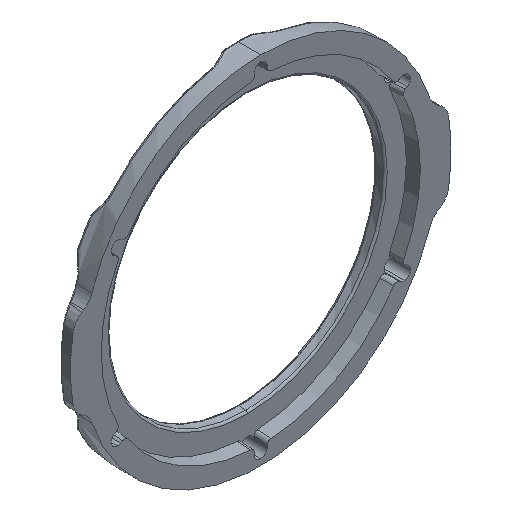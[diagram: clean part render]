
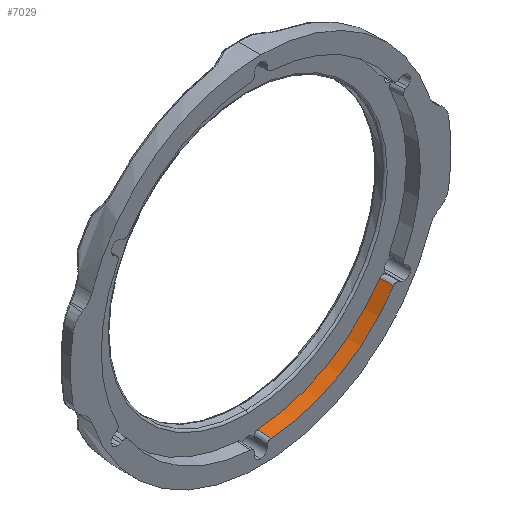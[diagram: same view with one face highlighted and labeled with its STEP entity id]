
A CAD part, isometric view. The second image highlights one B-rep face of the part: STEP entity #7029.
In plain terms, the highlighted conical face has half-angle 4 degrees and reference radius 39.825 mm.
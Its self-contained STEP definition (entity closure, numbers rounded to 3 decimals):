
#16 = DIRECTION ( 'NONE',  ( 0., -1., 0. ) ) ;
#123 = CARTESIAN_POINT ( 'NONE',  ( 33.071, 1.33, -22.022 ) ) ;
#301 = AXIS2_PLACEMENT_3D ( 'NONE', #3674, #16, #1499 ) ;
#443 = DIRECTION ( 'NONE',  ( 0., 0., -1. ) ) ;
#460 = CARTESIAN_POINT ( 'NONE',  ( 2.536, 0., -39.744 ) ) ;
#484 = CARTESIAN_POINT ( 'NONE',  ( 32.951, 3.3, -21.953 ) ) ;
#579 = ORIENTED_EDGE ( 'NONE', *, *, #2286, .T. ) ;
#1055 = EDGE_LOOP ( 'NONE', ( #8793, #5590, #579, #3909 ) ) ;
#1317 = AXIS2_PLACEMENT_3D ( 'NONE', #5117, #2333, #7284 ) ;
#1371 = FACE_OUTER_BOUND ( 'NONE', #1055, .T. ) ;
#1499 = DIRECTION ( 'NONE',  ( 0., 0., -1. ) ) ;
#1561 = VERTEX_POINT ( 'NONE', #1948 ) ;
#1914 = CARTESIAN_POINT ( 'NONE',  ( 2.536, 0., -39.744 ) ) ;
#1925 = CARTESIAN_POINT ( 'NONE',  ( 2.536, 3.3, -39.513 ) ) ;
#1948 = CARTESIAN_POINT ( 'NONE',  ( 2.536, 3.3, -39.513 ) ) ;
#2221 = VERTEX_POINT ( 'NONE', #6035 ) ;
#2265 = B_SPLINE_CURVE_WITH_KNOTS ( 'NONE', 3,
 ( #2942, #5002, #123, #7132, #3632, #5064, #5034 ),
 .UNSPECIFIED., .F., .F.,
 ( 4, 3, 4 ),
 ( 0., 0.002, 0.003 ),
 .UNSPECIFIED. ) ;
#2286 = EDGE_CURVE ( 'NONE', #6073, #2221, #8963, .T. ) ;
#2333 = DIRECTION ( 'NONE',  ( 0., -1., 0. ) ) ;
#2942 = CARTESIAN_POINT ( 'NONE',  ( 33.151, 0., -22.069 ) ) ;
#3287 = CARTESIAN_POINT ( 'NONE',  ( 0., 0., 0. ) ) ;
#3396 = CARTESIAN_POINT ( 'NONE',  ( 2.536, 2.635, -39.56 ) ) ;
#3632 = CARTESIAN_POINT ( 'NONE',  ( 33.004, 2.43, -21.983 ) ) ;
#3674 = CARTESIAN_POINT ( 'NONE',  ( 0., 0., 0. ) ) ;
#3896 = VERTEX_POINT ( 'NONE', #484 ) ;
#3909 = ORIENTED_EDGE ( 'NONE', *, *, #7447, .T. ) ;
#4068 = CARTESIAN_POINT ( 'NONE',  ( 2.536, 1.305, -39.653 ) ) ;
#4129 = CARTESIAN_POINT ( 'NONE',  ( 2.536, 0.87, -39.683 ) ) ;
#4161 = CONICAL_SURFACE ( 'NONE', #301, 39.825, 0.07 ) ;
#5002 = CARTESIAN_POINT ( 'NONE',  ( 33.111, 0.665, -22.045 ) ) ;
#5034 = CARTESIAN_POINT ( 'NONE',  ( 32.951, 3.3, -21.953 ) ) ;
#5064 = CARTESIAN_POINT ( 'NONE',  ( 32.978, 2.865, -21.968 ) ) ;
#5117 = CARTESIAN_POINT ( 'NONE',  ( 0., 3.3, 0. ) ) ;
#5590 = ORIENTED_EDGE ( 'NONE', *, *, #7250, .T. ) ;
#5800 = EDGE_CURVE ( 'NONE', #1561, #3896, #8493, .T. ) ;
#6035 = CARTESIAN_POINT ( 'NONE',  ( 33.151, 0., -22.069 ) ) ;
#6073 = VERTEX_POINT ( 'NONE', #1914 ) ;
#6888 = AXIS2_PLACEMENT_3D ( 'NONE', #3287, #7535, #443 ) ;
#6894 = CARTESIAN_POINT ( 'NONE',  ( 2.536, 1.97, -39.606 ) ) ;
#7029 = ADVANCED_FACE ( 'NONE', ( #1371 ), #4161, .F. ) ;
#7132 = CARTESIAN_POINT ( 'NONE',  ( 33.03, 1.995, -21.999 ) ) ;
#7250 = EDGE_CURVE ( 'NONE', #1561, #6073, #9009, .T. ) ;
#7284 = DIRECTION ( 'NONE',  ( 0., 0., 1. ) ) ;
#7447 = EDGE_CURVE ( 'NONE', #2221, #3896, #2265, .T. ) ;
#7535 = DIRECTION ( 'NONE',  ( 0., -1., 0. ) ) ;
#8312 = CARTESIAN_POINT ( 'NONE',  ( 2.536, 0.435, -39.714 ) ) ;
#8493 = CIRCLE ( 'NONE', #1317, 39.594 ) ;
#8793 = ORIENTED_EDGE ( 'NONE', *, *, #5800, .F. ) ;
#8963 = CIRCLE ( 'NONE', #6888, 39.825 ) ;
#9009 = B_SPLINE_CURVE_WITH_KNOTS ( 'NONE', 3,
 ( #1925, #3396, #6894, #4068, #4129, #8312, #460 ),
 .UNSPECIFIED., .F., .F.,
 ( 4, 3, 4 ),
 ( 0., 0.002, 0.003 ),
 .UNSPECIFIED. ) ;
